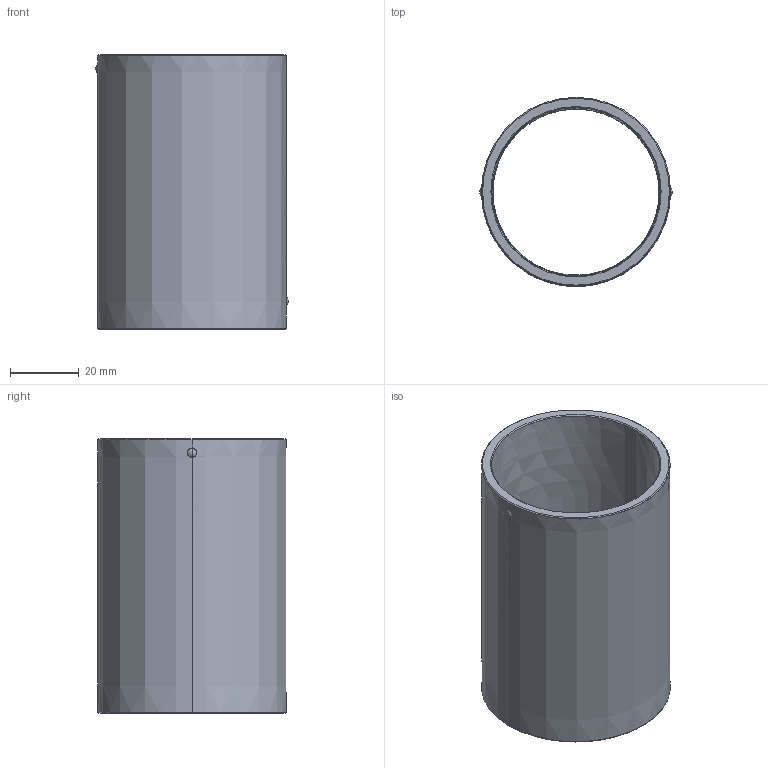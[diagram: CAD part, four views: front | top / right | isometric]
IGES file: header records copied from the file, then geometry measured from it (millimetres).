
Start section: START RECORD GO HERE.
Global section: file name: 730-48x80.igs; native system: DASSAULT SYSTEMES CATIA V5 R20 - www.3ds.com; preprocessor: CATIA Version 5 Release 20 ; author: Utente; organization: NB04-ASUS; date: 20210107.170634; units: millimetre
Bounding box: 55.99 x 55 x 80 mm (x, y, z)
Surface area: 27639.7 mm2 (no closed solid volume)
Topology: 0 solids, 0 shells, 44 faces, 240 edges, 240 vertices
Faces by surface type: revolution 36, plane 8
